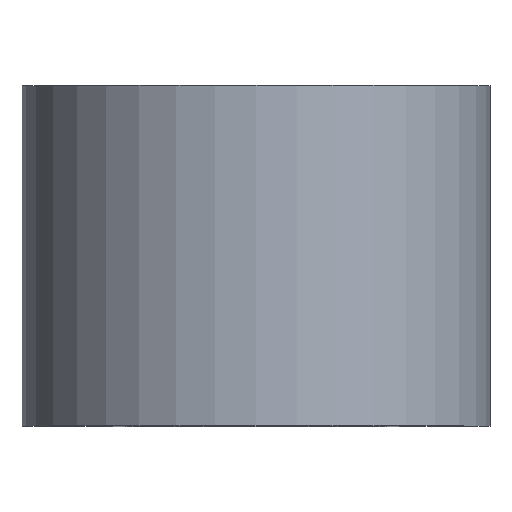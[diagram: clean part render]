
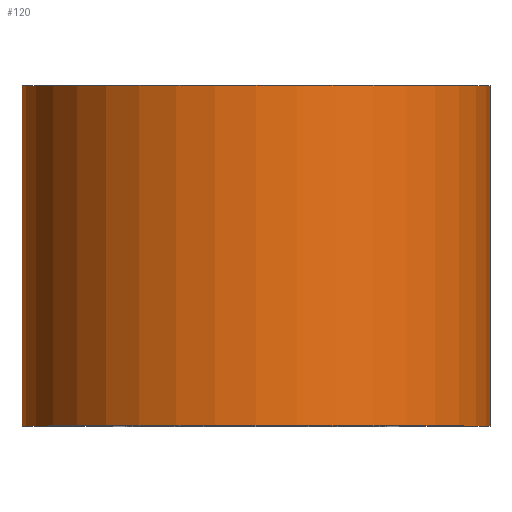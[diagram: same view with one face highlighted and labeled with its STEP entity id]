
A CAD part, top view. The second image highlights one B-rep face of the part: STEP entity #120.
In plain terms, the highlighted cylindrical face has radius 11 mm (diameter 22 mm), a partial arc.
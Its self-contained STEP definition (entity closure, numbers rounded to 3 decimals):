
#13 = CARTESIAN_POINT ( 'NONE',  ( -11., 16., 0. ) ) ;
#29 = DIRECTION ( 'NONE',  ( 0., 1., 0. ) ) ;
#33 = DIRECTION ( 'NONE',  ( -1., 0., 0. ) ) ;
#35 = EDGE_CURVE ( 'NONE', #65, #89, #210, .T. ) ;
#37 = CARTESIAN_POINT ( 'NONE',  ( 11., 0., 0. ) ) ;
#47 = DIRECTION ( 'NONE',  ( 0., 1., 0. ) ) ;
#52 = LINE ( 'NONE', #242, #276 ) ;
#65 = VERTEX_POINT ( 'NONE', #13 ) ;
#81 = ORIENTED_EDGE ( 'NONE', *, *, #35, .F. ) ;
#82 = ORIENTED_EDGE ( 'NONE', *, *, #275, .F. ) ;
#84 = ORIENTED_EDGE ( 'NONE', *, *, #225, .T. ) ;
#89 = VERTEX_POINT ( 'NONE', #287 ) ;
#95 = CARTESIAN_POINT ( 'NONE',  ( 11., 0., 0. ) ) ;
#97 = CARTESIAN_POINT ( 'NONE',  ( 0., 0., 0. ) ) ;
#107 = AXIS2_PLACEMENT_3D ( 'NONE', #218, #167, #33 ) ;
#120 = ADVANCED_FACE ( 'NONE', ( #286 ), #153, .T. ) ;
#122 = DIRECTION ( 'NONE',  ( 0., 1., 0. ) ) ;
#123 = EDGE_LOOP ( 'NONE', ( #197, #84, #81, #82 ) ) ;
#132 = CIRCLE ( 'NONE', #214, 11. ) ;
#141 = DIRECTION ( 'NONE',  ( 0., 1., 0. ) ) ;
#146 = DIRECTION ( 'NONE',  ( -1., 0., 0. ) ) ;
#153 = CYLINDRICAL_SURFACE ( 'NONE', #107, 11. ) ;
#167 = DIRECTION ( 'NONE',  ( 0., 1., 0. ) ) ;
#191 = CARTESIAN_POINT ( 'NONE',  ( -11., 0., 0. ) ) ;
#194 = CARTESIAN_POINT ( 'NONE',  ( 0., 16., 0. ) ) ;
#197 = ORIENTED_EDGE ( 'NONE', *, *, #292, .T. ) ;
#207 = LINE ( 'NONE', #37, #273 ) ;
#209 = VERTEX_POINT ( 'NONE', #191 ) ;
#210 = CIRCLE ( 'NONE', #239, 11. ) ;
#214 = AXIS2_PLACEMENT_3D ( 'NONE', #97, #122, #146 ) ;
#218 = CARTESIAN_POINT ( 'NONE',  ( 0., 0., 0. ) ) ;
#225 = EDGE_CURVE ( 'NONE', #291, #89, #207, .T. ) ;
#239 = AXIS2_PLACEMENT_3D ( 'NONE', #194, #47, #243 ) ;
#242 = CARTESIAN_POINT ( 'NONE',  ( -11., 0., 0. ) ) ;
#243 = DIRECTION ( 'NONE',  ( -1., 0., 0. ) ) ;
#273 = VECTOR ( 'NONE', #141, 1000. ) ;
#275 = EDGE_CURVE ( 'NONE', #209, #65, #52, .T. ) ;
#276 = VECTOR ( 'NONE', #29, 1000. ) ;
#286 = FACE_OUTER_BOUND ( 'NONE', #123, .T. ) ;
#287 = CARTESIAN_POINT ( 'NONE',  ( 11., 16., 0. ) ) ;
#291 = VERTEX_POINT ( 'NONE', #95 ) ;
#292 = EDGE_CURVE ( 'NONE', #209, #291, #132, .T. ) ;
